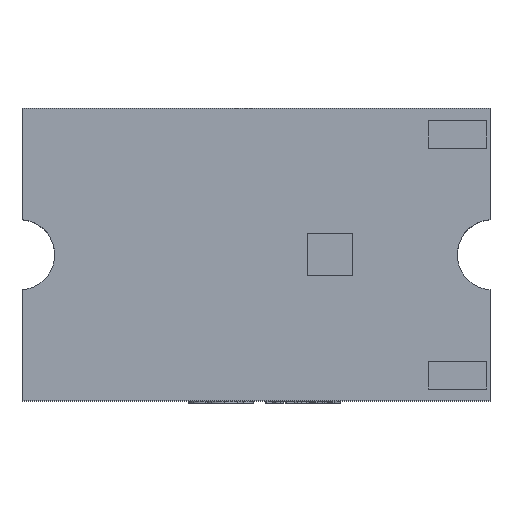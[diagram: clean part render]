
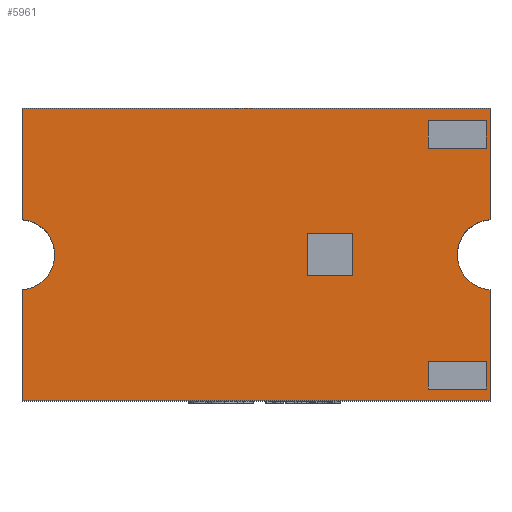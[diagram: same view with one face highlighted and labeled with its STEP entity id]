
A CAD part, top view. The second image highlights one B-rep face of the part: STEP entity #5961.
In plain terms, the highlighted planar face has unit normal (0, 0, 1).
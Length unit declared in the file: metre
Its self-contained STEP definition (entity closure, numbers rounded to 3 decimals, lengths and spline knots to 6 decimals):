
#492=LINE('',#12420,#1007);
#495=LINE('',#12426,#1010);
#497=LINE('',#12430,#1012);
#499=LINE('',#12434,#1014);
#504=LINE('',#12445,#1019);
#507=LINE('',#12451,#1022);
#509=LINE('',#12455,#1024);
#511=LINE('',#12459,#1026);
#516=LINE('',#12470,#1031);
#519=LINE('',#12476,#1034);
#521=LINE('',#12480,#1036);
#523=LINE('',#12484,#1038);
#528=LINE('',#12500,#1043);
#530=LINE('',#12504,#1045);
#533=LINE('',#12510,#1048);
#538=LINE('',#12521,#1053);
#541=LINE('',#12526,#1056);
#542=LINE('',#12529,#1057);
#1007=VECTOR('',#9664,1.);
#1010=VECTOR('',#9669,1.);
#1012=VECTOR('',#9673,1.);
#1014=VECTOR('',#9677,1.);
#1019=VECTOR('',#9686,1.);
#1022=VECTOR('',#9691,1.);
#1024=VECTOR('',#9695,1.);
#1026=VECTOR('',#9699,1.);
#1031=VECTOR('',#9708,1.);
#1034=VECTOR('',#9713,1.);
#1036=VECTOR('',#9717,1.);
#1038=VECTOR('',#9721,1.);
#1043=VECTOR('',#9734,1.);
#1045=VECTOR('',#9738,1.);
#1048=VECTOR('',#9743,1.);
#1053=VECTOR('',#9750,1.);
#1056=VECTOR('',#9755,1.);
#1057=VECTOR('',#9760,1.);
#2675=ORIENTED_EDGE('',*,*,#3695,.F.);
#2676=ORIENTED_EDGE('',*,*,#3697,.F.);
#2677=ORIENTED_EDGE('',*,*,#3690,.F.);
#2678=ORIENTED_EDGE('',*,*,#3693,.F.);
#2679=ORIENTED_EDGE('',*,*,#3721,.F.);
#2680=ORIENTED_EDGE('',*,*,#3719,.F.);
#2681=ORIENTED_EDGE('',*,*,#3717,.F.);
#2682=ORIENTED_EDGE('',*,*,#3714,.F.);
#2683=ORIENTED_EDGE('',*,*,#3709,.F.);
#2684=ORIENTED_EDGE('',*,*,#3707,.F.);
#2685=ORIENTED_EDGE('',*,*,#3705,.F.);
#2686=ORIENTED_EDGE('',*,*,#3702,.F.);
#2687=ORIENTED_EDGE('',*,*,#3738,.T.);
#2688=ORIENTED_EDGE('',*,*,#3742,.F.);
#2689=ORIENTED_EDGE('',*,*,#3730,.T.);
#2690=ORIENTED_EDGE('',*,*,#3728,.T.);
#2691=ORIENTED_EDGE('',*,*,#3741,.T.);
#2692=ORIENTED_EDGE('',*,*,#3722,.F.);
#2693=ORIENTED_EDGE('',*,*,#3733,.T.);
#2694=ORIENTED_EDGE('',*,*,#3743,.T.);
#3690=EDGE_CURVE('',#4260,#4261,#492,.T.);
#3693=EDGE_CURVE('',#4262,#4260,#495,.T.);
#3695=EDGE_CURVE('',#4263,#4262,#497,.T.);
#3697=EDGE_CURVE('',#4261,#4263,#499,.T.);
#3702=EDGE_CURVE('',#4268,#4269,#504,.T.);
#3705=EDGE_CURVE('',#4269,#4270,#507,.T.);
#3707=EDGE_CURVE('',#4270,#4271,#509,.T.);
#3709=EDGE_CURVE('',#4271,#4268,#511,.T.);
#3714=EDGE_CURVE('',#4276,#4277,#516,.T.);
#3717=EDGE_CURVE('',#4277,#4278,#519,.T.);
#3719=EDGE_CURVE('',#4278,#4279,#521,.T.);
#3721=EDGE_CURVE('',#4279,#4276,#523,.T.);
#3722=EDGE_CURVE('',#4280,#4281,#4486,.T.);
#3728=EDGE_CURVE('',#4287,#4286,#528,.T.);
#3730=EDGE_CURVE('',#4288,#4287,#530,.T.);
#3733=EDGE_CURVE('',#4280,#4290,#533,.T.);
#3738=EDGE_CURVE('',#4295,#4294,#538,.T.);
#3741=EDGE_CURVE('',#4286,#4281,#541,.T.);
#3742=EDGE_CURVE('',#4288,#4294,#4488,.T.);
#3743=EDGE_CURVE('',#4290,#4295,#542,.T.);
#4260=VERTEX_POINT('',#12421);
#4261=VERTEX_POINT('',#12422);
#4262=VERTEX_POINT('',#12427);
#4263=VERTEX_POINT('',#12431);
#4268=VERTEX_POINT('',#12446);
#4269=VERTEX_POINT('',#12447);
#4270=VERTEX_POINT('',#12452);
#4271=VERTEX_POINT('',#12456);
#4276=VERTEX_POINT('',#12471);
#4277=VERTEX_POINT('',#12472);
#4278=VERTEX_POINT('',#12477);
#4279=VERTEX_POINT('',#12481);
#4280=VERTEX_POINT('',#12487);
#4281=VERTEX_POINT('',#12488);
#4286=VERTEX_POINT('',#12499);
#4287=VERTEX_POINT('',#12501);
#4288=VERTEX_POINT('',#12505);
#4290=VERTEX_POINT('',#12511);
#4294=VERTEX_POINT('',#12520);
#4295=VERTEX_POINT('',#12522);
#4486=CIRCLE('',#8274,0.00015);
#4488=CIRCLE('',#8282,0.00015);
#4800=EDGE_LOOP('',(#2675,#2676,#2677,#2678));
#4801=EDGE_LOOP('',(#2679,#2680,#2681,#2682));
#4802=EDGE_LOOP('',(#2683,#2684,#2685,#2686));
#4803=EDGE_LOOP('',(#2687,#2688,#2689,#2690,#2691,#2692,#2693,#2694));
#5135=FACE_BOUND('',#4800,.T.);
#5136=FACE_BOUND('',#4801,.T.);
#5137=FACE_BOUND('',#4802,.T.);
#5138=FACE_BOUND('',#4803,.T.);
#5350=PLANE('',#8281);
#5961=ADVANCED_FACE('',(#5135,#5136,#5137,#5138),#5350,.T.);
#8274=AXIS2_PLACEMENT_3D('',#12486,#9724,#9725);
#8281=AXIS2_PLACEMENT_3D('',#12527,#9756,#9757);
#8282=AXIS2_PLACEMENT_3D('',#12528,#9758,#9759);
#9664=DIRECTION('',(-1.,0.,0.));
#9669=DIRECTION('',(0.,1.,0.));
#9673=DIRECTION('',(1.,0.,0.));
#9677=DIRECTION('',(0.,-1.,0.));
#9686=DIRECTION('',(1.,0.,0.));
#9691=DIRECTION('',(0.,1.,0.));
#9695=DIRECTION('',(-1.,0.,0.));
#9699=DIRECTION('',(0.,-1.,0.));
#9708=DIRECTION('',(-1.,0.,0.));
#9713=DIRECTION('',(0.,-1.,0.));
#9717=DIRECTION('',(1.,0.,0.));
#9721=DIRECTION('',(0.,1.,0.));
#9724=DIRECTION('',(0.,0.,1.));
#9725=DIRECTION('',(-1.,0.,0.));
#9734=DIRECTION('',(-1.,0.,0.));
#9738=DIRECTION('',(0.,1.,0.));
#9743=DIRECTION('',(0.,-1.,0.));
#9750=DIRECTION('',(0.,1.,0.));
#9755=DIRECTION('',(0.,-1.,0.));
#9756=DIRECTION('',(0.,0.,1.));
#9757=DIRECTION('',(-1.,0.,0.));
#9758=DIRECTION('',(0.,0.,1.));
#9759=DIRECTION('',(-1.,0.,0.));
#9760=DIRECTION('',(1.,0.,0.));
#12420=CARTESIAN_POINT('',(-0.11215,-0.043734,0.01011));
#12421=CARTESIAN_POINT('',(-0.11215,-0.043734,0.01011));
#12422=CARTESIAN_POINT('',(-0.112344,-0.043734,0.01011));
#12426=CARTESIAN_POINT('',(-0.11215,-0.043914,0.01011));
#12427=CARTESIAN_POINT('',(-0.11215,-0.043914,0.01011));
#12430=CARTESIAN_POINT('',(-0.11215,-0.043914,0.01011));
#12431=CARTESIAN_POINT('',(-0.112344,-0.043914,0.01011));
#12434=CARTESIAN_POINT('',(-0.112344,-0.043914,0.01011));
#12445=CARTESIAN_POINT('',(-0.111579,-0.044398,0.01011));
#12446=CARTESIAN_POINT('',(-0.111828,-0.044398,0.01011));
#12447=CARTESIAN_POINT('',(-0.111579,-0.044398,0.01011));
#12451=CARTESIAN_POINT('',(-0.111579,-0.044398,0.01011));
#12452=CARTESIAN_POINT('',(-0.111579,-0.044278,0.01011));
#12455=CARTESIAN_POINT('',(-0.111579,-0.044278,0.01011));
#12456=CARTESIAN_POINT('',(-0.111828,-0.044278,0.01011));
#12459=CARTESIAN_POINT('',(-0.111828,-0.044398,0.01011));
#12470=CARTESIAN_POINT('',(-0.111579,-0.04325,0.01011));
#12471=CARTESIAN_POINT('',(-0.111579,-0.04325,0.01011));
#12472=CARTESIAN_POINT('',(-0.111828,-0.04325,0.01011));
#12476=CARTESIAN_POINT('',(-0.111828,-0.04325,0.01011));
#12477=CARTESIAN_POINT('',(-0.111828,-0.04337,0.01011));
#12480=CARTESIAN_POINT('',(-0.111579,-0.04337,0.01011));
#12481=CARTESIAN_POINT('',(-0.111579,-0.04337,0.01011));
#12484=CARTESIAN_POINT('',(-0.111579,-0.04325,0.01011));
#12486=CARTESIAN_POINT('',(-0.113573,-0.043824,0.01011));
#12487=CARTESIAN_POINT('',(-0.113563,-0.043974,0.01011));
#12488=CARTESIAN_POINT('',(-0.113563,-0.043674,0.01011));
#12499=CARTESIAN_POINT('',(-0.113563,-0.043199,0.01011));
#12500=CARTESIAN_POINT('',(-0.111563,-0.043199,0.01011));
#12501=CARTESIAN_POINT('',(-0.111563,-0.043199,0.01011));
#12504=CARTESIAN_POINT('',(-0.111563,-0.044449,0.01011));
#12505=CARTESIAN_POINT('',(-0.111563,-0.043674,0.01011));
#12510=CARTESIAN_POINT('',(-0.113563,-0.044449,0.01011));
#12511=CARTESIAN_POINT('',(-0.113563,-0.044449,0.01011));
#12520=CARTESIAN_POINT('',(-0.111563,-0.043974,0.01011));
#12521=CARTESIAN_POINT('',(-0.111563,-0.044449,0.01011));
#12522=CARTESIAN_POINT('',(-0.111563,-0.044449,0.01011));
#12526=CARTESIAN_POINT('',(-0.113563,-0.044449,0.01011));
#12527=CARTESIAN_POINT('',(-0.112563,-0.043824,0.01011));
#12528=CARTESIAN_POINT('',(-0.111553,-0.043824,0.01011));
#12529=CARTESIAN_POINT('',(-0.111563,-0.044449,0.01011));
